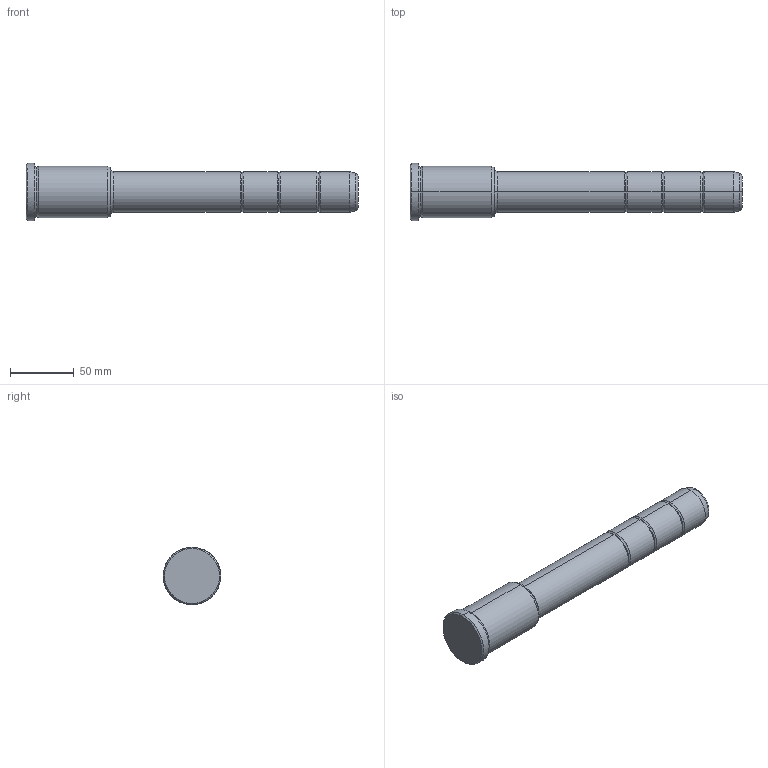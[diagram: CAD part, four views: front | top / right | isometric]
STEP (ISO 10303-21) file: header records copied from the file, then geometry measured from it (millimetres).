
FILE_DESCRIPTION(('CATIA V5 STEP Exchange'),'2;1');
FILE_NAME('C:\Users\Utente\Desktop\IO LAVORO\3D X SITO CF\X SITO\PLASTICA\351\351-32X66X260.stp','2021-09-07T12:25:39+00:00',('none'),('none'),'CATIA Version 5 Release 20 GA (IN-10)','CATIA V5 STEP AP203','none');
FILE_SCHEMA(('CONFIG_CONTROL_DESIGN'));
Length unit declared in the file: millimetre
Products named in the file (1): 351-32X66X260
Bounding box: 260 x 45 x 45 mm (x, y, z)
Volume: 239951.5 mm3; surface area: 30712.1 mm2
Topology: 1 solids, 1 shells, 42 faces, 118 edges, 80 vertices
Faces by surface type: torus 20, cylinder 12, cone 6, plane 4
Entity records: 1472 total; most frequent: CARTESIAN_POINT 353, ORIENTED_EDGE 236, DIRECTION 194, AXIS2_PLACEMENT_3D 135, EDGE_CURVE 118, CIRCLE 92, VERTEX_POINT 80, EDGE_LOOP 44
